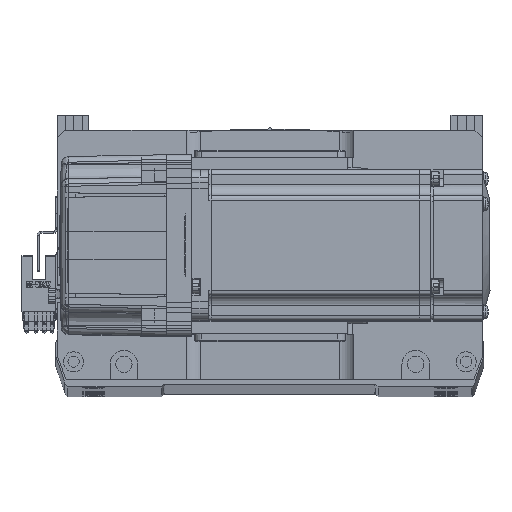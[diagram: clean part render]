
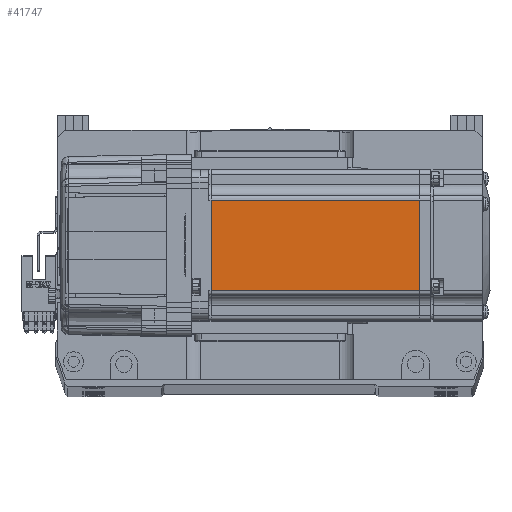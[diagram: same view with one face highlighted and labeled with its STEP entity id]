
A CAD part, top view. The second image highlights one B-rep face of the part: STEP entity #41747.
In plain terms, the highlighted planar face has unit normal (0, 0, 1) as drawn and (0, -1, 0) by its records, which use the part's own axes.
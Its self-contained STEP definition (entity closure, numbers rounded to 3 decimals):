
#1494 = CARTESIAN_POINT ( 'NONE',  ( -7.75, -30., 18. ) ) ;
#10628 = LINE ( 'NONE', #32399, #27767 ) ;
#11161 = DIRECTION ( 'NONE',  ( 0., 0., 1. ) ) ;
#14706 = VERTEX_POINT ( 'NONE', #66406 ) ;
#15600 = DIRECTION ( 'NONE',  ( -1., 0., 0. ) ) ;
#19782 = EDGE_CURVE ( 'NONE', #34480, #45445, #45510, .T. ) ;
#22935 = FACE_OUTER_BOUND ( 'NONE', #23189, .T. ) ;
#23189 = EDGE_LOOP ( 'NONE', ( #46821, #37455, #49213, #47996 ) ) ;
#25646 = VERTEX_POINT ( 'NONE', #37428 ) ;
#27767 = VECTOR ( 'NONE', #11161, 1000. ) ;
#28905 = EDGE_CURVE ( 'NONE', #25646, #14706, #52395, .T. ) ;
#30666 = DIRECTION ( 'NONE',  ( 0., 0., -1. ) ) ;
#31922 = CARTESIAN_POINT ( 'NONE',  ( -6.5, -30., -18. ) ) ;
#32225 = CARTESIAN_POINT ( 'NONE',  ( -6.5, -30., -25. ) ) ;
#32399 = CARTESIAN_POINT ( 'NONE',  ( -7.75, -30., -25. ) ) ;
#33331 = VECTOR ( 'NONE', #30666, 1000. ) ;
#34113 = AXIS2_PLACEMENT_3D ( 'NONE', #32225, #53406, #63736 ) ;
#34480 = VERTEX_POINT ( 'NONE', #1494 ) ;
#37042 = PLANE ( 'NONE',  #34113 ) ;
#37428 = CARTESIAN_POINT ( 'NONE',  ( -90.45, -30., -18. ) ) ;
#37455 = ORIENTED_EDGE ( 'NONE', *, *, #19782, .T. ) ;
#39750 = VECTOR ( 'NONE', #15600, 1000. ) ;
#40441 = CARTESIAN_POINT ( 'NONE',  ( -90.45, -30., -25. ) ) ;
#41747 = ADVANCED_FACE ( 'NONE', ( #22935 ), #37042, .T. ) ;
#45445 = VERTEX_POINT ( 'NONE', #47341 ) ;
#45510 = LINE ( 'NONE', #51438, #39750 ) ;
#46821 = ORIENTED_EDGE ( 'NONE', *, *, #52782, .T. ) ;
#47341 = CARTESIAN_POINT ( 'NONE',  ( -90.45, -30., 18. ) ) ;
#47666 = DIRECTION ( 'NONE',  ( 1., 0., 0. ) ) ;
#47996 = ORIENTED_EDGE ( 'NONE', *, *, #28905, .T. ) ;
#49213 = ORIENTED_EDGE ( 'NONE', *, *, #49603, .T. ) ;
#49603 = EDGE_CURVE ( 'NONE', #45445, #25646, #61098, .T. ) ;
#51438 = CARTESIAN_POINT ( 'NONE',  ( -6.5, -30., 18. ) ) ;
#52395 = LINE ( 'NONE', #31922, #64673 ) ;
#52782 = EDGE_CURVE ( 'NONE', #14706, #34480, #10628, .T. ) ;
#53406 = DIRECTION ( 'NONE',  ( 0., -1., 0. ) ) ;
#61098 = LINE ( 'NONE', #40441, #33331 ) ;
#63736 = DIRECTION ( 'NONE',  ( 0., 0., -1. ) ) ;
#64673 = VECTOR ( 'NONE', #47666, 1000. ) ;
#66406 = CARTESIAN_POINT ( 'NONE',  ( -7.75, -30., -18. ) ) ;
